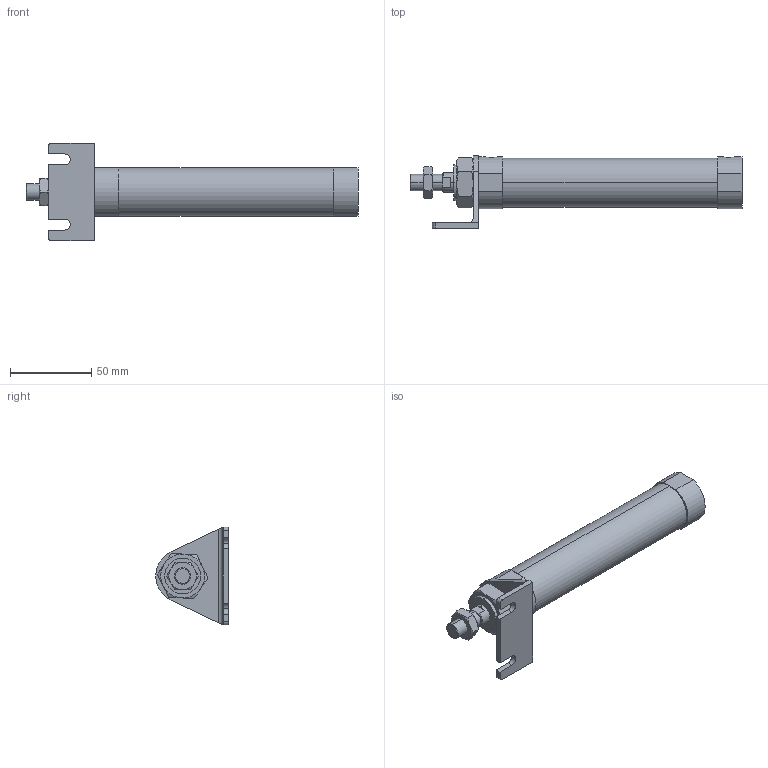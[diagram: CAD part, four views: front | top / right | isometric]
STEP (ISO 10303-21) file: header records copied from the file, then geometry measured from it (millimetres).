
FILE_DESCRIPTION (( 'STEP AP203' ), '1' );
FILE_NAME ('JGND2-25-100-L.STEP', '2016-08-04T02:39:35', ( '' ), ( '' ), 'SwSTEP 2.0', 'SolidWorks 2014', '' );
FILE_SCHEMA (( 'CONFIG_CONTROL_DESIGN' ));
Length unit declared in the file: millimetre
Products named in the file (5): JGND2-25-100-L; J#2-25-L; J#2-25-100(P)
Assembly tree (4 placements, depth 2):
  JGND2-25-100-L
    J#2-25-100(P)
    (unnamed)
    (unnamed)
    J#2-25-L
Bounding box: 204 x 44.5 x 60 mm (x, y, z)
Volume: 135433.9 mm3; surface area: 29839.4 mm2
Topology: 4 solids, 4 shells, 115 faces, 268 edges, 162 vertices
Faces by surface type: plane 50, cylinder 33, torus 24, cone 8
Entity records: 4077 total; most frequent: CARTESIAN_POINT 994, DIRECTION 542, ORIENTED_EDGE 528, EDGE_CURVE 264, AXIS2_PLACEMENT_3D 214, VERTEX_POINT 162, EDGE_LOOP 126, ADVANCED_FACE 115
